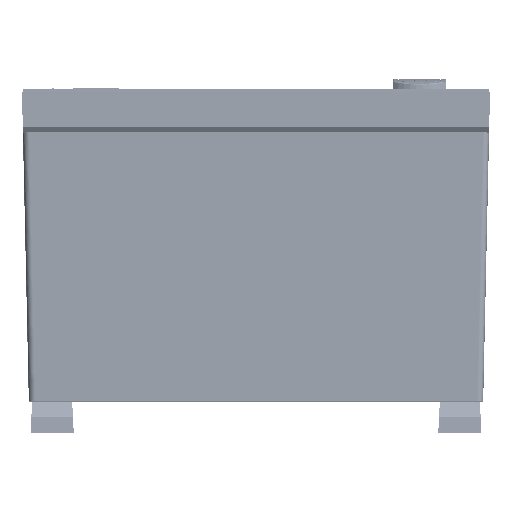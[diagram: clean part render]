
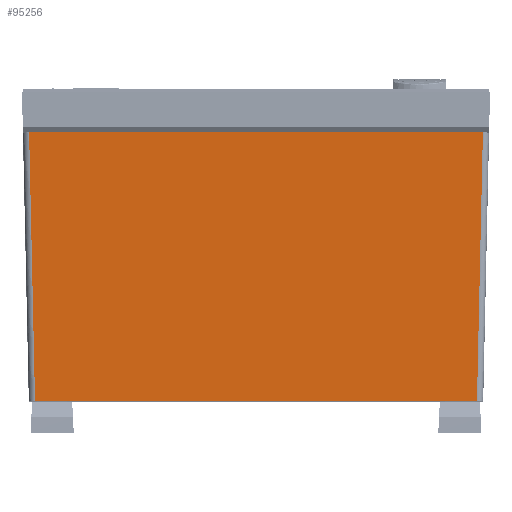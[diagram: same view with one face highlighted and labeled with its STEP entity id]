
A CAD part, top view. The second image highlights one B-rep face of the part: STEP entity #95256.
In plain terms, the highlighted planar face has unit normal (0, -0.022, 1).
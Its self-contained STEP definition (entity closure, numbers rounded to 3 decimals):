
#6139 = EDGE_CURVE ( 'NONE', #147406, #51590, #97766, .T. ) ;
#14334 = EDGE_CURVE ( 'NONE', #51590, #140267, #104842, .T. ) ;
#26692 = CARTESIAN_POINT ( 'NONE',  ( 142.087, 3.912, 184.086 ) ) ;
#33861 = VECTOR ( 'NONE', #80524, 1000. ) ;
#42243 = DIRECTION ( 'NONE',  ( 1., 0., 0. ) ) ;
#46906 = DIRECTION ( 'NONE',  ( 1., 0., 0. ) ) ;
#51590 = VERTEX_POINT ( 'NONE', #94053 ) ;
#52488 = DIRECTION ( 'NONE',  ( 0.022, -1., -0.022 ) ) ;
#65957 = VERTEX_POINT ( 'NONE', #229035 ) ;
#68305 = CARTESIAN_POINT ( 'NONE',  ( 200., 173., 187.8 ) ) ;
#76912 = VECTOR ( 'NONE', #52488, 1000. ) ;
#80248 = CARTESIAN_POINT ( 'NONE',  ( -145.805, 172.625, 187.792 ) ) ;
#80524 = DIRECTION ( 'NONE',  ( 0.022, 1., 0.022 ) ) ;
#81226 = VECTOR ( 'NONE', #42243, 1000. ) ;
#94053 = CARTESIAN_POINT ( 'NONE',  ( 142.001, 0., 184. ) ) ;
#95256 = ADVANCED_FACE ( 'NONE', ( #259269 ), #283664, .F. ) ;
#97766 = LINE ( 'NONE', #177669, #81226 ) ;
#99466 = DIRECTION ( 'NONE',  ( -1., 0., 0. ) ) ;
#104575 = LINE ( 'NONE', #80248, #76912 ) ;
#104842 = LINE ( 'NONE', #26692, #33861 ) ;
#140267 = VERTEX_POINT ( 'NONE', #156794 ) ;
#147406 = VERTEX_POINT ( 'NONE', #260529 ) ;
#156794 = CARTESIAN_POINT ( 'NONE',  ( 145.814, 173., 187.8 ) ) ;
#159703 = ORIENTED_EDGE ( 'NONE', *, *, #199173, .F. ) ;
#173607 = AXIS2_PLACEMENT_3D ( 'NONE', #68305, #174268, #99466 ) ;
#174268 = DIRECTION ( 'NONE',  ( 0., 0.022, -1. ) ) ;
#177669 = CARTESIAN_POINT ( 'NONE',  ( 200., 0., 184. ) ) ;
#199173 = EDGE_CURVE ( 'NONE', #65957, #140267, #222900, .T. ) ;
#222900 = LINE ( 'NONE', #232686, #318058 ) ;
#229035 = CARTESIAN_POINT ( 'NONE',  ( -145.814, 173., 187.8 ) ) ;
#232686 = CARTESIAN_POINT ( 'NONE',  ( 200., 173., 187.8 ) ) ;
#259269 = FACE_OUTER_BOUND ( 'NONE', #318120, .T. ) ;
#259596 = ORIENTED_EDGE ( 'NONE', *, *, #264863, .T. ) ;
#260529 = CARTESIAN_POINT ( 'NONE',  ( -142.001, 0., 184. ) ) ;
#264863 = EDGE_CURVE ( 'NONE', #65957, #147406, #104575, .T. ) ;
#269566 = ORIENTED_EDGE ( 'NONE', *, *, #14334, .T. ) ;
#281736 = ORIENTED_EDGE ( 'NONE', *, *, #6139, .T. ) ;
#283664 = PLANE ( 'NONE',  #173607 ) ;
#318058 = VECTOR ( 'NONE', #46906, 1000. ) ;
#318120 = EDGE_LOOP ( 'NONE', ( #259596, #281736, #269566, #159703 ) ) ;
